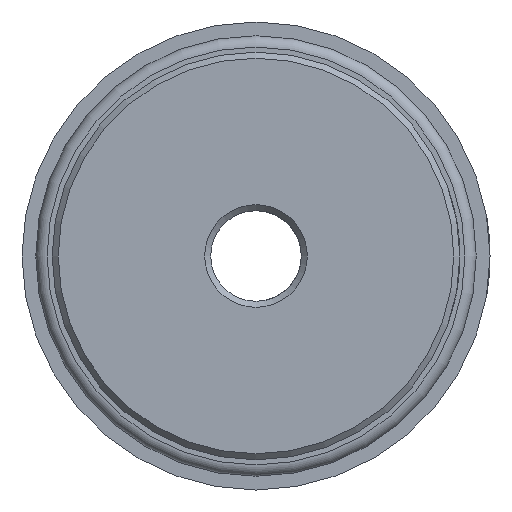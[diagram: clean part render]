
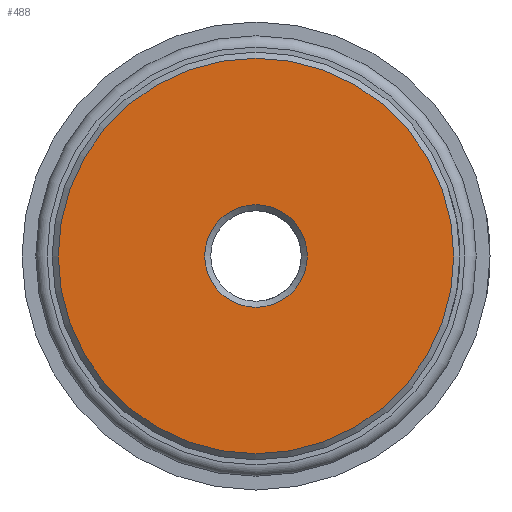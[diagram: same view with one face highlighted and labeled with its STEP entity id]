
A CAD part, left-side view. The second image highlights one B-rep face of the part: STEP entity #488.
In plain terms, the highlighted planar face has unit normal (-1, 0, 0).
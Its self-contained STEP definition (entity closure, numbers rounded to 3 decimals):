
#488 = ADVANCED_FACE( 'NONE', ( #1056, #1057 ), #1058, .F. );
#1056 = FACE_OUTER_BOUND( '', #1737, .T. );
#1057 = FACE_BOUND( '', #1738, .T. );
#1058 = PLANE( '', #1739 );
#1737 = EDGE_LOOP( '', ( #2750 ) );
#1738 = EDGE_LOOP( '', ( #2751 ) );
#1739 = AXIS2_PLACEMENT_3D( '', #2752, #2753, #2754 );
#2750 = ORIENTED_EDGE( '', *, *, #3485, .T. );
#2751 = ORIENTED_EDGE( '', *, *, #3733, .T. );
#2752 = CARTESIAN_POINT( '', ( 0., 1.5, 0. ) );
#2753 = DIRECTION( '', ( 1., 0., 0. ) );
#2754 = DIRECTION( '', ( 0., 1., 0. ) );
#3485 = EDGE_CURVE( 'NONE', #4024, #4024, #4025, .F. );
#3733 = EDGE_CURVE( 'NONE', #4410, #4410, #4411, .T. );
#4024 = VERTEX_POINT( '', #4777 );
#4025 = CIRCLE( '', #4778, 6.55 );
#4410 = VERTEX_POINT( '', #5309 );
#4411 = CIRCLE( '', #5310, 1.7 );
#4777 = CARTESIAN_POINT( '', ( 0., 0., -6.55 ) );
#4778 = AXIS2_PLACEMENT_3D( '', #5662, #5663, #5664 );
#5309 = CARTESIAN_POINT( '', ( 0., 0., -1.7 ) );
#5310 = AXIS2_PLACEMENT_3D( '', #6100, #6101, #6102 );
#5662 = CARTESIAN_POINT( '', ( 0., 0., 0. ) );
#5663 = DIRECTION( '', ( 1., 0., 0. ) );
#5664 = DIRECTION( '', ( 0., 0., -1. ) );
#6100 = CARTESIAN_POINT( '', ( 0., 0., 0. ) );
#6101 = DIRECTION( '', ( 1., 0., 0. ) );
#6102 = DIRECTION( '', ( 0., 0., -1. ) );
